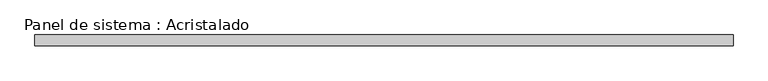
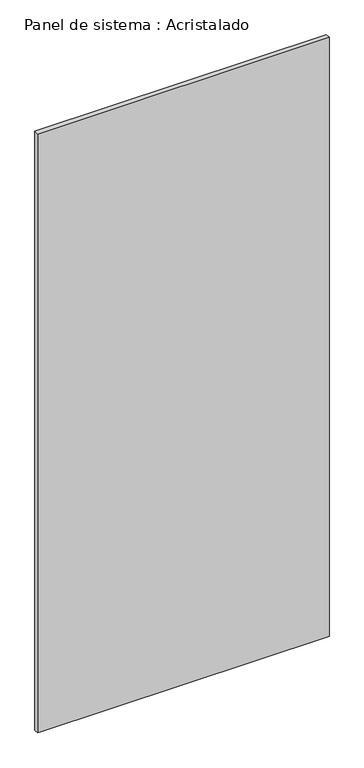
"""IFC4 building model written with IfcOpenShell, lengths in millimetres: plate geometry, Panel de sistema : Acristalado."""

from ifc_helpers import new_model, si_unit, origin, origin_with_axes, place, context, project, spatial, polyline, outline, extrude, source, transform, mapped, element, save


def panel_de_sistema_acristalado_27682961(model_context):
    return source(origin(), model_context, "Body", "SweptSolid", [
        extrude(outline(polyline([(649.1465517, -10.0), (-649.1465517, -10.0), (-649.1465517, 10.0), (649.1465517, 10.0), (649.1465517, -10.0)])), origin_with_axes(), (0.0, 0.0, 1.0), 2820.0),
    ])


if __name__ == "__main__":
    model = new_model("IFC4")
    model_context = context("Model", 3, world=origin())
    ifc_project = project(units=[si_unit("LENGTHUNIT", "METRE", prefix="MILLI")], contexts=[model_context])
    site = spatial("IfcSite", under=ifc_project)
    building = spatial("IfcBuilding", under=site)
    placement = place(None, origin())
    panel_de_sistema_acristalado_shape = panel_de_sistema_acristalado_27682961(model_context)
    element("IfcPlate", 1, ObjectType="Panel de sistema : Acristalado", at=placement, inside=building, context=model_context, shape_type="MappedRepresentation", body=[
        mapped(panel_de_sistema_acristalado_shape, transform((0.0, 0.0, 0.0), x_axis=(1.0, 0.0, 0.0), y_axis=(0.0, 1.0, 0.0), z_axis=(0.0, 0.0, 1.0))),
    ])
    save(model, "model.ifc")
